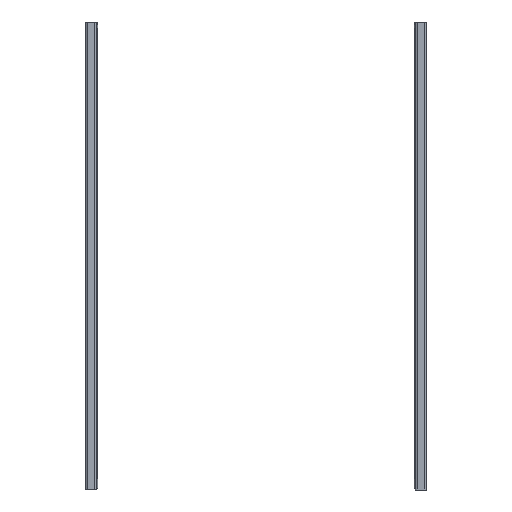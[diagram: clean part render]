
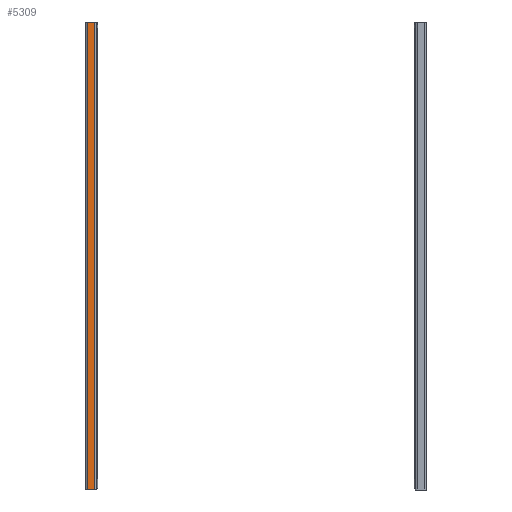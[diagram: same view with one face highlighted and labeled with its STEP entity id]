
A CAD part, front view. The second image highlights one B-rep face of the part: STEP entity #5309.
In plain terms, the highlighted planar face has unit normal (0, -1, 0).
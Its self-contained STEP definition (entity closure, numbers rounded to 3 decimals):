
#616=LINE('',#8159,#1091);
#775=LINE('',#8585,#1250);
#776=LINE('',#8588,#1251);
#777=LINE('',#8589,#1252);
#1091=VECTOR('',#6538,10.);
#1250=VECTOR('',#7021,10.);
#1251=VECTOR('',#7024,10.);
#1252=VECTOR('',#7025,10.);
#1510=PLANE('',#5889);
#1708=FACE_OUTER_BOUND('',#2007,.T.);
#2007=EDGE_LOOP('',(#4536,#4537,#4538,#4539));
#2609=VERTEX_POINT('',#8156);
#2610=VERTEX_POINT('',#8158);
#2715=VERTEX_POINT('',#8583);
#2716=VERTEX_POINT('',#8587);
#3145=EDGE_CURVE('',#2609,#2610,#616,.T.);
#3359=EDGE_CURVE('',#2715,#2609,#775,.T.);
#3360=EDGE_CURVE('',#2715,#2716,#776,.T.);
#3361=EDGE_CURVE('',#2610,#2716,#777,.T.);
#4536=ORIENTED_EDGE('',*,*,#3359,.F.);
#4537=ORIENTED_EDGE('',*,*,#3360,.T.);
#4538=ORIENTED_EDGE('',*,*,#3361,.F.);
#4539=ORIENTED_EDGE('',*,*,#3145,.F.);
#5309=ADVANCED_FACE('',(#1708),#1510,.T.);
#5889=AXIS2_PLACEMENT_3D('',#8586,#7022,#7023);
#6538=DIRECTION('',(-1.,0.,0.));
#7021=DIRECTION('',(0.,0.,-1.));
#7022=DIRECTION('center_axis',(0.,-1.,0.));
#7023=DIRECTION('ref_axis',(-1.,0.,0.));
#7024=DIRECTION('',(-1.,0.,0.));
#7025=DIRECTION('',(0.,0.,1.));
#8156=CARTESIAN_POINT('',(9.6,-22.25,-500.));
#8158=CARTESIAN_POINT('',(2.,-22.25,-500.));
#8159=CARTESIAN_POINT('',(11.6,-22.25,-500.));
#8583=CARTESIAN_POINT('',(9.6,-22.25,0.));
#8585=CARTESIAN_POINT('',(9.6,-22.25,0.));
#8586=CARTESIAN_POINT('Origin',(11.6,-22.25,0.));
#8587=CARTESIAN_POINT('',(2.,-22.25,0.));
#8588=CARTESIAN_POINT('',(11.6,-22.25,0.));
#8589=CARTESIAN_POINT('',(2.,-22.25,0.));
